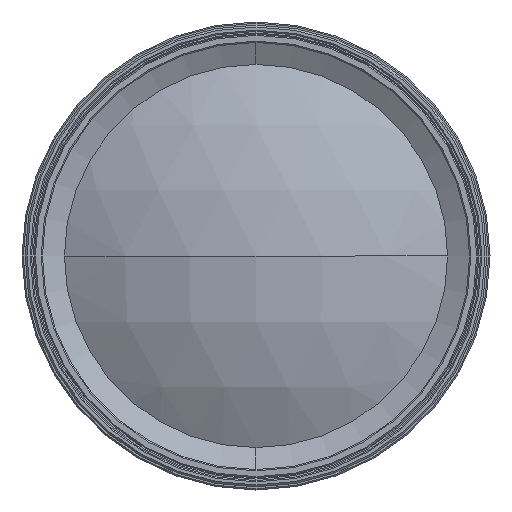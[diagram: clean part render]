
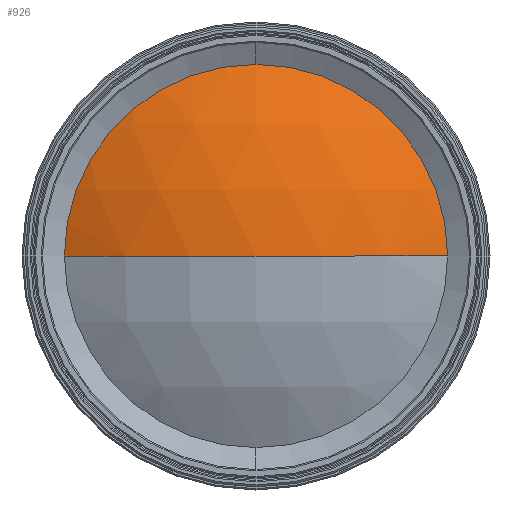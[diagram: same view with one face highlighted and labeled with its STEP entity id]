
A CAD part, left-side view. The second image highlights one B-rep face of the part: STEP entity #926.
In plain terms, the highlighted spherical face has radius 64 mm.
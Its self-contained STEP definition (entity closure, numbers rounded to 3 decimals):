
#24 = AXIS2_PLACEMENT_3D ( 'NONE', #5069, #2618, #199 ) ;
#90 = CARTESIAN_POINT ( 'NONE',  ( 7.735, 0., 0. ) ) ;
#99 = EDGE_LOOP ( 'NONE', ( #4825, #4435, #2565, #3443 ) ) ;
#199 = DIRECTION ( 'NONE',  ( 0., -1., 0. ) ) ;
#298 = CIRCLE ( 'NONE', #5005, 30.5 ) ;
#406 = VERTEX_POINT ( 'NONE', #4074 ) ;
#510 = DIRECTION ( 'NONE',  ( 0., 0., -1. ) ) ;
#689 = EDGE_CURVE ( 'NONE', #406, #1407, #2601, .T. ) ;
#857 = EDGE_CURVE ( 'NONE', #406, #3332, #2801, .T. ) ;
#881 = CIRCLE ( 'NONE', #4099, 30.5 ) ;
#926 = ADVANCED_FACE ( 'NONE', ( #3893 ), #2670, .T. ) ;
#1031 = CARTESIAN_POINT ( 'NONE',  ( 7.735, -30.5, 0. ) ) ;
#1196 = CARTESIAN_POINT ( 'NONE',  ( 7.735, 0., 0. ) ) ;
#1407 = VERTEX_POINT ( 'NONE', #3733 ) ;
#1466 = CARTESIAN_POINT ( 'NONE',  ( 64., 0., 0. ) ) ;
#1589 = DIRECTION ( 'NONE',  ( 0., 0., -1. ) ) ;
#1712 = DIRECTION ( 'NONE',  ( 0., 0., -1. ) ) ;
#2176 = AXIS2_PLACEMENT_3D ( 'NONE', #1466, #3899, #2261 ) ;
#2242 = CARTESIAN_POINT ( 'NONE',  ( 7.735, 0., 30.5 ) ) ;
#2261 = DIRECTION ( 'NONE',  ( 0., 1., 0. ) ) ;
#2429 = VERTEX_POINT ( 'NONE', #2242 ) ;
#2565 = ORIENTED_EDGE ( 'NONE', *, *, #5013, .F. ) ;
#2601 = CIRCLE ( 'NONE', #4339, 64. ) ;
#2618 = DIRECTION ( 'NONE',  ( 0., 0., 1. ) ) ;
#2670 = SPHERICAL_SURFACE ( 'NONE', #2176, 64. ) ;
#2801 = CIRCLE ( 'NONE', #24, 64. ) ;
#2936 = DIRECTION ( 'NONE',  ( 1., 0., 0. ) ) ;
#3332 = VERTEX_POINT ( 'NONE', #1031 ) ;
#3443 = ORIENTED_EDGE ( 'NONE', *, *, #5175, .F. ) ;
#3733 = CARTESIAN_POINT ( 'NONE',  ( 7.735, 30.5, 0. ) ) ;
#3893 = FACE_OUTER_BOUND ( 'NONE', #99, .T. ) ;
#3899 = DIRECTION ( 'NONE',  ( 0., 0., 1. ) ) ;
#4049 = DIRECTION ( 'NONE',  ( 1., 0., 0. ) ) ;
#4074 = CARTESIAN_POINT ( 'NONE',  ( 0., 0., 0. ) ) ;
#4099 = AXIS2_PLACEMENT_3D ( 'NONE', #90, #2936, #510 ) ;
#4167 = DIRECTION ( 'NONE',  ( -1., 0., 0. ) ) ;
#4339 = AXIS2_PLACEMENT_3D ( 'NONE', #4571, #1712, #4167 ) ;
#4435 = ORIENTED_EDGE ( 'NONE', *, *, #857, .T. ) ;
#4571 = CARTESIAN_POINT ( 'NONE',  ( 64., 0., 0. ) ) ;
#4825 = ORIENTED_EDGE ( 'NONE', *, *, #689, .F. ) ;
#5005 = AXIS2_PLACEMENT_3D ( 'NONE', #1196, #4049, #1589 ) ;
#5013 = EDGE_CURVE ( 'NONE', #2429, #3332, #298, .T. ) ;
#5069 = CARTESIAN_POINT ( 'NONE',  ( 64., 0., 0. ) ) ;
#5175 = EDGE_CURVE ( 'NONE', #1407, #2429, #881, .T. ) ;
